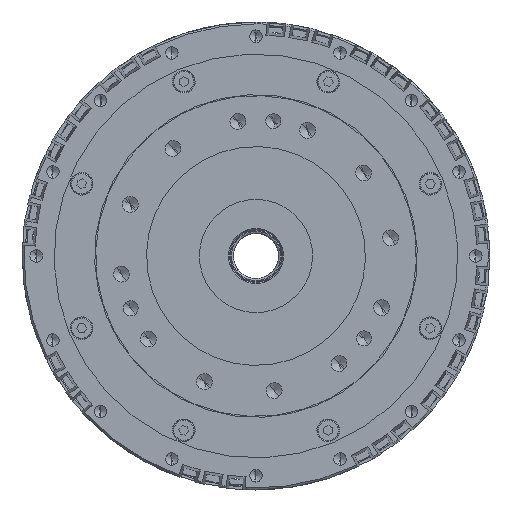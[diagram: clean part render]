
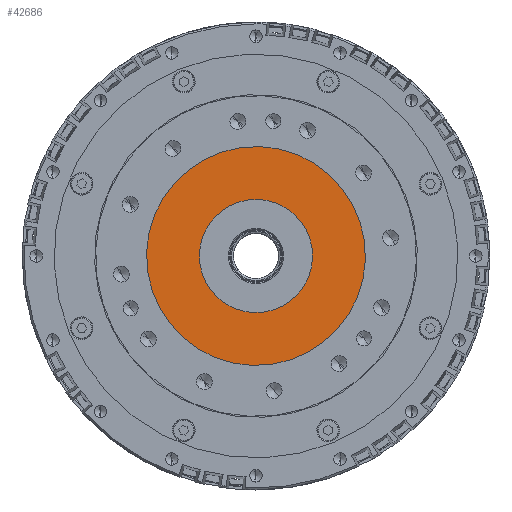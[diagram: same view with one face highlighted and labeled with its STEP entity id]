
A CAD part, front view. The second image highlights one B-rep face of the part: STEP entity #42686.
In plain terms, the highlighted planar face has unit normal (0, -1, 0).
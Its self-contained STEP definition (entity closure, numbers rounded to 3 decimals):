
#411 = CARTESIAN_POINT ( 'NONE',  ( 0., 4.5, 0. ) ) ;
#554 = CARTESIAN_POINT ( 'NONE',  ( 0., 4.5, 0. ) ) ;
#660 = CIRCLE ( 'NONE', #13759, 15. ) ;
#2244 = EDGE_LOOP ( 'NONE', ( #24111, #4028 ) ) ;
#2714 = DIRECTION ( 'NONE',  ( 0., 0., -1. ) ) ;
#2745 = DIRECTION ( 'NONE',  ( 0., 1., 0. ) ) ;
#3397 = AXIS2_PLACEMENT_3D ( 'NONE', #3905, #41220, #53781 ) ;
#3905 = CARTESIAN_POINT ( 'NONE',  ( 0., 4.5, 0. ) ) ;
#4028 = ORIENTED_EDGE ( 'NONE', *, *, #44501, .F. ) ;
#9571 = DIRECTION ( 'NONE',  ( 0., -1., 0. ) ) ;
#10143 = DIRECTION ( 'NONE',  ( 0., 0., -1. ) ) ;
#10826 = CARTESIAN_POINT ( 'NONE',  ( 0., 4.5, 29. ) ) ;
#11910 = DIRECTION ( 'NONE',  ( 0., 0., -1. ) ) ;
#13759 = AXIS2_PLACEMENT_3D ( 'NONE', #28050, #44690, #2714 ) ;
#15196 = EDGE_LOOP ( 'NONE', ( #42315, #43351 ) ) ;
#16811 = CARTESIAN_POINT ( 'NONE',  ( 0., 4.5, -29. ) ) ;
#16925 = DIRECTION ( 'NONE',  ( 0., 0., -1. ) ) ;
#21739 = VERTEX_POINT ( 'NONE', #46277 ) ;
#24111 = ORIENTED_EDGE ( 'NONE', *, *, #49503, .F. ) ;
#24131 = DIRECTION ( 'NONE',  ( 0., 1., 0. ) ) ;
#26068 = CIRCLE ( 'NONE', #31288, 29. ) ;
#27017 = VERTEX_POINT ( 'NONE', #53308 ) ;
#28050 = CARTESIAN_POINT ( 'NONE',  ( 0., 4.5, 0. ) ) ;
#31288 = AXIS2_PLACEMENT_3D ( 'NONE', #411, #24131, #11910 ) ;
#32018 = EDGE_CURVE ( 'NONE', #42123, #48159, #51705, .T. ) ;
#32248 = FACE_OUTER_BOUND ( 'NONE', #15196, .T. ) ;
#33069 = PLANE ( 'NONE',  #3397 ) ;
#41220 = DIRECTION ( 'NONE',  ( 0., -1., 0. ) ) ;
#42070 = CIRCLE ( 'NONE', #50789, 15. ) ;
#42123 = VERTEX_POINT ( 'NONE', #10826 ) ;
#42315 = ORIENTED_EDGE ( 'NONE', *, *, #32018, .F. ) ;
#42686 = ADVANCED_FACE ( 'NONE', ( #53495, #32248 ), #33069, .T. ) ;
#43351 = ORIENTED_EDGE ( 'NONE', *, *, #43536, .F. ) ;
#43536 = EDGE_CURVE ( 'NONE', #48159, #42123, #26068, .T. ) ;
#44501 = EDGE_CURVE ( 'NONE', #21739, #27017, #42070, .T. ) ;
#44690 = DIRECTION ( 'NONE',  ( 0., -1., 0. ) ) ;
#46277 = CARTESIAN_POINT ( 'NONE',  ( 0., 4.5, 15. ) ) ;
#46518 = AXIS2_PLACEMENT_3D ( 'NONE', #51551, #2745, #10143 ) ;
#48159 = VERTEX_POINT ( 'NONE', #16811 ) ;
#49503 = EDGE_CURVE ( 'NONE', #27017, #21739, #660, .T. ) ;
#50789 = AXIS2_PLACEMENT_3D ( 'NONE', #554, #9571, #16925 ) ;
#51551 = CARTESIAN_POINT ( 'NONE',  ( 0., 4.5, 0. ) ) ;
#51705 = CIRCLE ( 'NONE', #46518, 29. ) ;
#53308 = CARTESIAN_POINT ( 'NONE',  ( 0., 4.5, -15. ) ) ;
#53495 = FACE_BOUND ( 'NONE', #2244, .T. ) ;
#53781 = DIRECTION ( 'NONE',  ( 0., 0., -1. ) ) ;
